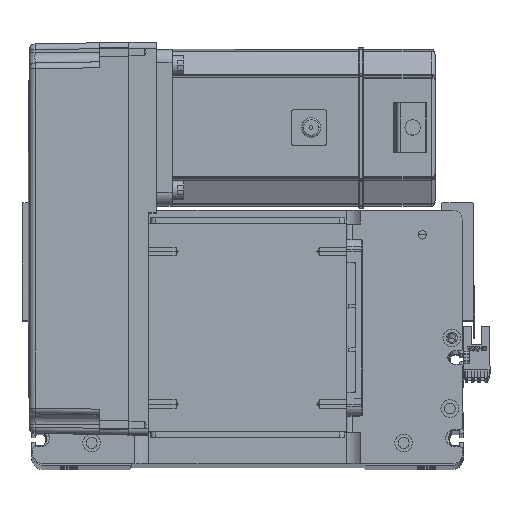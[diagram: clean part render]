
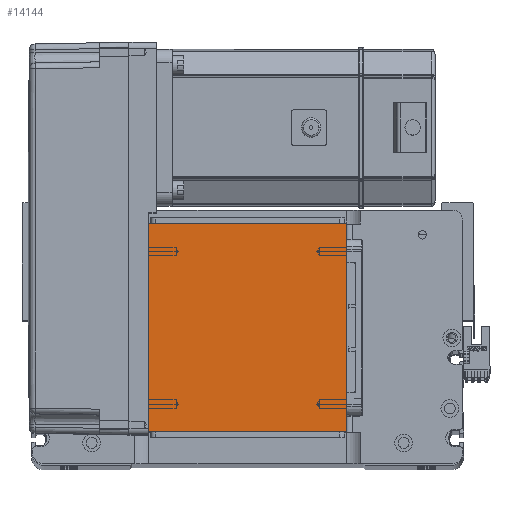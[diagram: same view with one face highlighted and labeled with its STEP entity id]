
A CAD part, top view. The second image highlights one B-rep face of the part: STEP entity #14144.
In plain terms, the highlighted planar face has unit normal (0, 0, 1).
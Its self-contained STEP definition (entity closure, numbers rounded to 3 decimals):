
#76 = CARTESIAN_POINT ( 'NONE',  ( -50.5, 122., 115. ) ) ;
#1539 = ORIENTED_EDGE ( 'NONE', *, *, #19764, .T. ) ;
#2057 = FACE_OUTER_BOUND ( 'NONE', #11433, .T. ) ;
#3841 = CARTESIAN_POINT ( 'NONE',  ( 50.5, 16., 115. ) ) ;
#7175 = EDGE_CURVE ( 'NONE', #9439, #35049, #26665, .T. ) ;
#9439 = VERTEX_POINT ( 'NONE', #42719 ) ;
#11433 = EDGE_LOOP ( 'NONE', ( #40691, #47165, #1539, #14186 ) ) ;
#12450 = CARTESIAN_POINT ( 'NONE',  ( -50.5, 122., 115. ) ) ;
#14144 = ADVANCED_FACE ( 'NONE', ( #2057 ), #31217, .T. ) ;
#14186 = ORIENTED_EDGE ( 'NONE', *, *, #7175, .T. ) ;
#15454 = EDGE_CURVE ( 'NONE', #35049, #41855, #46058, .T. ) ;
#16633 = LINE ( 'NONE', #47606, #37629 ) ;
#18393 = CARTESIAN_POINT ( 'NONE',  ( 0., 0., 115. ) ) ;
#19764 = EDGE_CURVE ( 'NONE', #37805, #9439, #24606, .T. ) ;
#21977 = DIRECTION ( 'NONE',  ( 0., 1., 0. ) ) ;
#22509 = DIRECTION ( 'NONE',  ( 1., 0., 0. ) ) ;
#23195 = DIRECTION ( 'NONE',  ( 1., 0., 0. ) ) ;
#24467 = CARTESIAN_POINT ( 'NONE',  ( -50.5, 122., 115. ) ) ;
#24606 = LINE ( 'NONE', #46378, #26505 ) ;
#24800 = AXIS2_PLACEMENT_3D ( 'NONE', #18393, #46918, #22509 ) ;
#26505 = VECTOR ( 'NONE', #21977, 1000. ) ;
#26665 = LINE ( 'NONE', #76, #43875 ) ;
#31217 = PLANE ( 'NONE',  #24800 ) ;
#32344 = DIRECTION ( 'NONE',  ( -1., 0., 0. ) ) ;
#35049 = VERTEX_POINT ( 'NONE', #24467 ) ;
#37629 = VECTOR ( 'NONE', #23195, 1000. ) ;
#37805 = VERTEX_POINT ( 'NONE', #3841 ) ;
#40691 = ORIENTED_EDGE ( 'NONE', *, *, #15454, .T. ) ;
#40922 = DIRECTION ( 'NONE',  ( 0., -1., 0. ) ) ;
#41331 = CARTESIAN_POINT ( 'NONE',  ( -50.5, 16., 115. ) ) ;
#41855 = VERTEX_POINT ( 'NONE', #41331 ) ;
#42211 = VECTOR ( 'NONE', #40922, 1000. ) ;
#42719 = CARTESIAN_POINT ( 'NONE',  ( 50.5, 122., 115. ) ) ;
#43875 = VECTOR ( 'NONE', #32344, 1000. ) ;
#45654 = EDGE_CURVE ( 'NONE', #41855, #37805, #16633, .T. ) ;
#46058 = LINE ( 'NONE', #12450, #42211 ) ;
#46378 = CARTESIAN_POINT ( 'NONE',  ( 50.5, 122., 115. ) ) ;
#46918 = DIRECTION ( 'NONE',  ( 0., 0., 1. ) ) ;
#47165 = ORIENTED_EDGE ( 'NONE', *, *, #45654, .T. ) ;
#47606 = CARTESIAN_POINT ( 'NONE',  ( -50.5, 16., 115. ) ) ;
